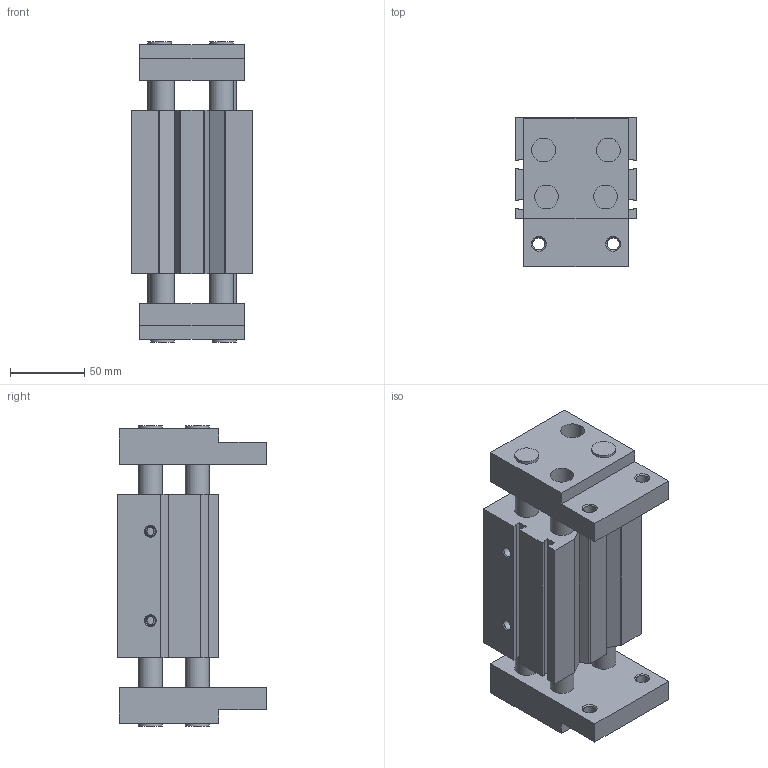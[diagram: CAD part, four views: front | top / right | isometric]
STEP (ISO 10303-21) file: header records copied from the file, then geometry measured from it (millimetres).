
FILE_DESCRIPTION( ( 'STEP AP214' ), '1' );
FILE_NAME( 'C:/Users/ashearer/Desktop/Mindman New CAD/Grippers/MCHX-32-70M_150_.stp', ' ', ( ' ' ), ( ' ' ), 'PSStep 15.0.47', 'PARTsolutions', ' ' );
FILE_SCHEMA( ( 'AUTOMOTIVE_DESIGN { 1 0 10303 214 1 1 1 1 }' ) );
Length unit declared in the file: millimetre
Products named in the file (3): MCHX-32-70M(150); _MCHX-32-70M_b; _MCHX-32-70M_f
Assembly tree (3 placements, depth 2):
  MCHX-32-70M(150)
    _MCHX-32-70M_b
    _MCHX-32-70M_f  x2
Bounding box: 82 x 100 x 202 mm (x, y, z)
Volume: 887203.3 mm3; surface area: 152197.7 mm2
Topology: 3 solids, 3 shells, 133 faces, 330 edges, 214 vertices
Faces by surface type: plane 73, cylinder 34, cone 26
Full cylindrical faces by diameter (mm): 6 x1, 6.647 x6, 8.376 x4, 16 x16, 35 x1
Entity records: 4084 total; most frequent: CARTESIAN_POINT 633, DIRECTION 518, ORIENTED_EDGE 452, EDGE_CURVE 226, AXIS2_PLACEMENT_3D 181, EDGE_LOOP 178, VERTEX_POINT 176, LINE 156
